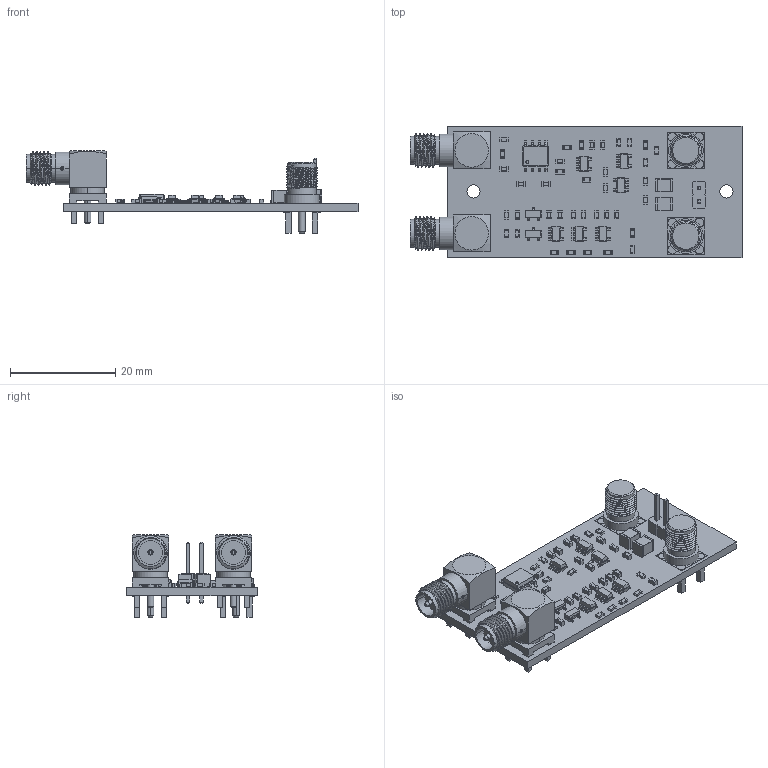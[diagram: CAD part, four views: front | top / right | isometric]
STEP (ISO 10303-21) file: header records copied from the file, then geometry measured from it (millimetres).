
FILE_DESCRIPTION(('KiCad electronic assembly'),'2;1');
FILE_NAME('FREQ_INTF2.step','2024-08-19T09:08:27',('Pcbnew'),('Kicad'), 'Open CASCADE STEP processor 7.7','KiCad to STEP converter','Unknown' );
FILE_SCHEMA(('AUTOMOTIVE_DESIGN { 1 0 10303 214 1 1 1 1 }'));
Length unit declared in the file: millimetre
Products named in the file (20): FREQ_INTF2 1; SOIC-8_3.9x4.9mm_P1.27mm; SOIC_8_39x49mm_P127mm; PinHeader_1x02_P2.54mm_Vertical; PinHeader_1x02_P254mm_Vertical; C_0603_1608Metric; R_0603_1608Metric; SOT-23-5; SOT_23_5; D_SOT-23; D_SOT_23; L_1210_3225Metric; 901-144-8RFX; CONREVSMA002-G; FREQ_INTF_PCB
Assembly tree (64 placements, depth 3):
  FREQ_INTF2 1
    SOIC-8_3.9x4.9mm_P1.27mm
      SOIC_8_39x49mm_P127mm
    PinHeader_1x02_P2.54mm_Vertical
      PinHeader_1x02_P254mm_Vertical
    C_0603_1608Metric  x24
      C_0603_1608Metric
    R_0603_1608Metric  x14
      R_0603_1608Metric
    SOT-23-5  x6
      SOT_23_5
    D_SOT-23  x2
      D_SOT_23
    L_1210_3225Metric  x2
      L_1210_3225Metric
    901-144-8RFX  x2
      901-144-8RFX
    CONREVSMA002-G  x2
      CONREVSMA002-G
    FREQ_INTF_PCB
Bounding box: 63.01 x 24.89 x 15.74 mm (x, y, z)
Volume: 4196.8 mm3; surface area: 6405.5 mm2
Topology: 63 solids, 63 shells, 2480 faces, 6329 edges, 4054 vertices
Faces by surface type: plane 1421, cylinder 743, bspline 280, cone 28, sphere 8
Full cylindrical faces by diameter (mm): 0.6 x1, 1 x2, 1.5 x4, 1.7 x16, 2.5 x2
Entity records: 26024 total; most frequent: CARTESIAN_POINT 6121, ORIENTED_EDGE 3430, DIRECTION 3133, EDGE_CURVE 1715, LINE 1193, VECTOR 1193, VERTEX_POINT 1086, AXIS2_PLACEMENT_3D 970
